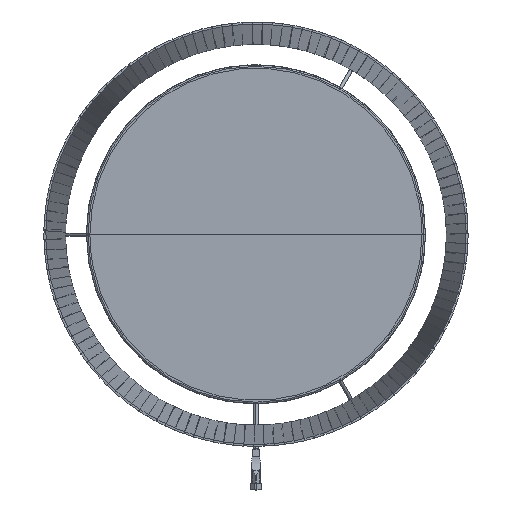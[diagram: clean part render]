
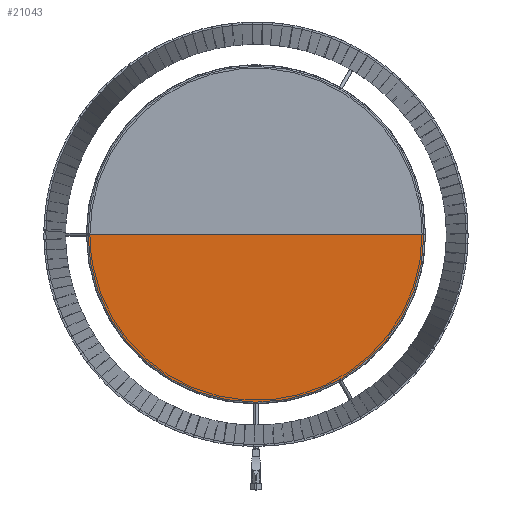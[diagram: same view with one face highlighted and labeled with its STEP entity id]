
A CAD part, top view. The second image highlights one B-rep face of the part: STEP entity #21043.
In plain terms, the highlighted planar face has unit normal (0, 0, 1) as drawn and (0, 0, -1) by its records, which use the part's own axes.
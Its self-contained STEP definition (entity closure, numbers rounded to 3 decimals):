
#1625=PLANE('',#22578);
#2863=FACE_OUTER_BOUND('',#4120,.T.);
#4120=EDGE_LOOP('',(#19639,#19640));
#6700=LINE('',#36336,#9272);
#9272=VECTOR('',#27908,304.8);
#9404=CIRCLE('',#22573,198.182);
#11244=VERTEX_POINT('',#36201);
#11245=VERTEX_POINT('',#36202);
#14050=EDGE_CURVE('',#11245,#11244,#9404,.T.);
#14053=EDGE_CURVE('',#11244,#11245,#6700,.T.);
#19639=ORIENTED_EDGE('',*,*,#14053,.T.);
#19640=ORIENTED_EDGE('',*,*,#14050,.T.);
#21043=ADVANCED_FACE('',(#2863),#1625,.T.);
#22573=AXIS2_PLACEMENT_3D('',#36330,#27897,#27898);
#22578=AXIS2_PLACEMENT_3D('',#36337,#27909,#27910);
#27897=DIRECTION('center_axis',(0.,0.,-1.));
#27898=DIRECTION('ref_axis',(-1.,0.,0.));
#27908=DIRECTION('',(-1.,0.,0.));
#27909=DIRECTION('center_axis',(0.,0.,-1.));
#27910=DIRECTION('ref_axis',(-1.,0.,0.));
#36201=CARTESIAN_POINT('',(198.182,0.,27.771));
#36202=CARTESIAN_POINT('',(-198.182,0.,27.771));
#36330=CARTESIAN_POINT('Origin',(0.,0.,27.771));
#36336=CARTESIAN_POINT('',(198.182,0.,27.771));
#36337=CARTESIAN_POINT('Origin',(0.,0.,27.771));
